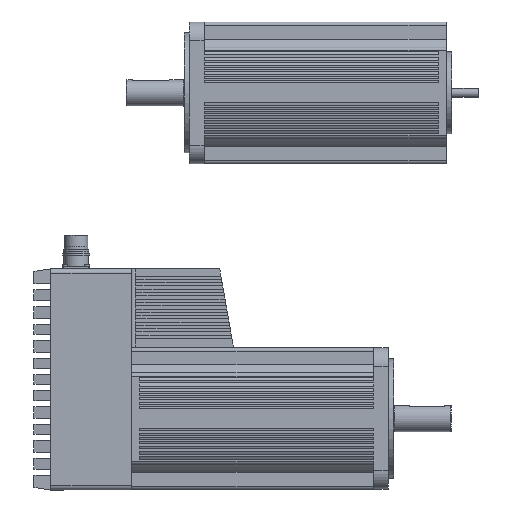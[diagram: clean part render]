
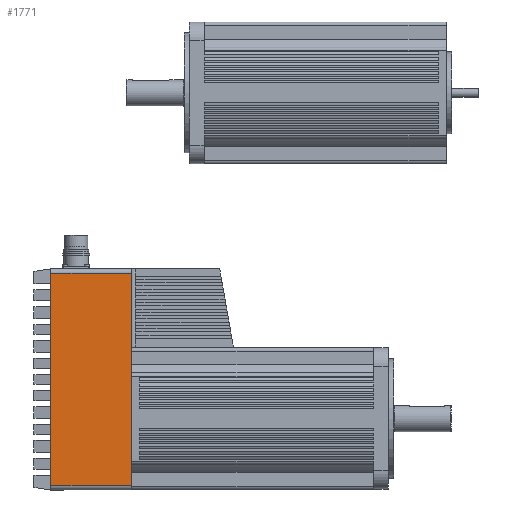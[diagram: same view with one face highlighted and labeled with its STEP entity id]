
A CAD part, left-side view. The second image highlights one B-rep face of the part: STEP entity #1771.
In plain terms, the highlighted planar face has unit normal (-1, 0, 0).
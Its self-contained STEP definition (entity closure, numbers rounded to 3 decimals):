
#1771 = ADVANCED_FACE( '', ( #4518 ), #4519, .T. );
#4518 = FACE_OUTER_BOUND( '', #8484, .T. );
#4519 = PLANE( '', #8485 );
#8484 = EDGE_LOOP( '', ( #13705, #13706, #13707, #13708 ) );
#8485 = AXIS2_PLACEMENT_3D( '', #13709, #13710, #13711 );
#13705 = ORIENTED_EDGE( '', *, *, #23464, .F. );
#13706 = ORIENTED_EDGE( '', *, *, #23465, .T. );
#13707 = ORIENTED_EDGE( '', *, *, #23466, .F. );
#13708 = ORIENTED_EDGE( '', *, *, #23467, .T. );
#13709 = CARTESIAN_POINT( '', ( -84.621, 189.6, 121.111 ) );
#13710 = DIRECTION( '', ( -1., 0., 0. ) );
#13711 = DIRECTION( '', ( 0., 0., 1. ) );
#23464 = EDGE_CURVE( '', #28425, #28426, #28427, .T. );
#23465 = EDGE_CURVE( '', #28425, #28428, #28429, .F. );
#23466 = EDGE_CURVE( '', #28430, #28428, #28431, .T. );
#23467 = EDGE_CURVE( '', #28430, #28426, #28432, .T. );
#28425 = VERTEX_POINT( '', #35348 );
#28426 = VERTEX_POINT( '', #35349 );
#28427 = LINE( '', #35350, #35351 );
#28428 = VERTEX_POINT( '', #35352 );
#28429 = LINE( '', #35353, #35354 );
#28430 = VERTEX_POINT( '', #35355 );
#28431 = LINE( '', #35356, #35357 );
#28432 = LINE( '', #35358, #35359 );
#35348 = CARTESIAN_POINT( '', ( -84.621, 173.6, 117.111 ) );
#35349 = CARTESIAN_POINT( '', ( -84.621, 173.6, -77.789 ) );
#35350 = CARTESIAN_POINT( '', ( -84.621, 173.6, 121.111 ) );
#35351 = VECTOR( '', #42257, 1000. );
#35352 = CARTESIAN_POINT( '', ( -84.621, 247.7, 117.111 ) );
#35353 = CARTESIAN_POINT( '', ( -84.621, 189.6, 117.111 ) );
#35354 = VECTOR( '', #42258, 1000. );
#35355 = CARTESIAN_POINT( '', ( -84.621, 247.7, -77.789 ) );
#35356 = CARTESIAN_POINT( '', ( -84.621, 247.7, 121.011 ) );
#35357 = VECTOR( '', #42259, 1000. );
#35358 = CARTESIAN_POINT( '', ( -84.621, 173.6, -77.789 ) );
#35359 = VECTOR( '', #42260, 1000. );
#42257 = DIRECTION( '', ( 0., 0., -1. ) );
#42258 = DIRECTION( '', ( 0., -1., 0. ) );
#42259 = DIRECTION( '', ( 0., 0., 1. ) );
#42260 = DIRECTION( '', ( 0., -1., 0. ) );
